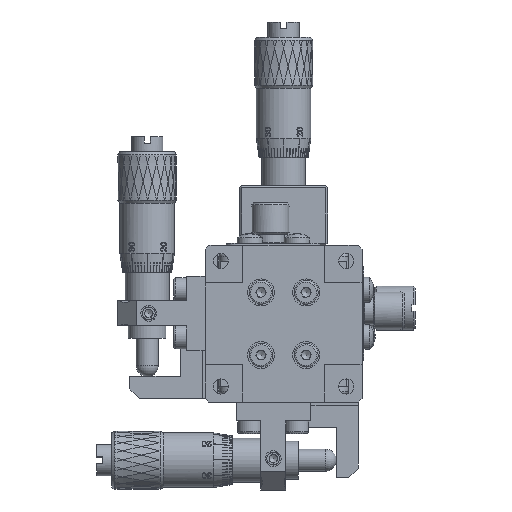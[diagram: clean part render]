
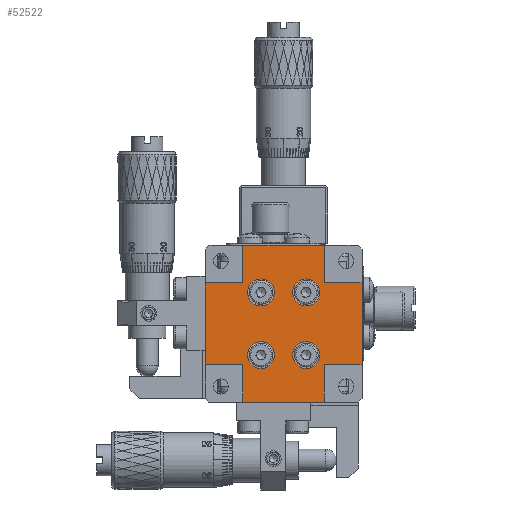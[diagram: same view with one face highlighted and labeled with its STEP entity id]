
A CAD part, front view. The second image highlights one B-rep face of the part: STEP entity #52522.
In plain terms, the highlighted planar face has unit normal (0, -1, 0).
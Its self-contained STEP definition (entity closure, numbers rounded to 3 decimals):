
#136 = DIRECTION ( 'NONE',  ( 0., 0., -1. ) ) ;
#360 = VERTEX_POINT ( 'NONE', #21362 ) ;
#741 = ORIENTED_EDGE ( 'NONE', *, *, #126607, .F. ) ;
#1957 = ORIENTED_EDGE ( 'NONE', *, *, #75576, .T. ) ;
#1966 = DIRECTION ( 'NONE',  ( 0., 0., -1. ) ) ;
#2541 = VERTEX_POINT ( 'NONE', #92465 ) ;
#2914 = FACE_BOUND ( 'NONE', #92681, .T. ) ;
#5341 = VERTEX_POINT ( 'NONE', #115067 ) ;
#6558 = CARTESIAN_POINT ( 'NONE',  ( -27.901, -13.093, -3.6 ) ) ;
#10688 = VECTOR ( 'NONE', #51397, 1000. ) ;
#10891 = VECTOR ( 'NONE', #140004, 1000. ) ;
#10924 = CARTESIAN_POINT ( 'NONE',  ( -11.801, -13.093, -15.1 ) ) ;
#13637 = CARTESIAN_POINT ( 'NONE',  ( -21.901, -13.093, 2.4 ) ) ;
#14381 = LINE ( 'NONE', #104701, #10688 ) ;
#14555 = ORIENTED_EDGE ( 'NONE', *, *, #93800, .F. ) ;
#14658 = ORIENTED_EDGE ( 'NONE', *, *, #142246, .F. ) ;
#14787 = PLANE ( 'NONE',  #111827 ) ;
#15530 = DIRECTION ( 'NONE',  ( 0., 0., -1. ) ) ;
#16820 = CARTESIAN_POINT ( 'NONE',  ( -19.001, -13.093, -5.1 ) ) ;
#17293 = CARTESIAN_POINT ( 'NONE',  ( -11.801, -13.093, -5.1 ) ) ;
#18073 = VECTOR ( 'NONE', #115816, 1000. ) ;
#21153 = CARTESIAN_POINT ( 'NONE',  ( -21.901, -13.093, -22.6 ) ) ;
#21362 = CARTESIAN_POINT ( 'NONE',  ( -21.901, -13.093, -3.6 ) ) ;
#23477 = DIRECTION ( 'NONE',  ( 0., 1., 0. ) ) ;
#23827 = VECTOR ( 'NONE', #59621, 1000. ) ;
#24265 = VECTOR ( 'NONE', #121311, 1000. ) ;
#24267 = AXIS2_PLACEMENT_3D ( 'NONE', #16820, #50894, #96020 ) ;
#26185 = DIRECTION ( 'NONE',  ( 0., 0., 1. ) ) ;
#28215 = CARTESIAN_POINT ( 'NONE',  ( -2.901, -13.093, -3.6 ) ) ;
#28628 = ORIENTED_EDGE ( 'NONE', *, *, #64726, .F. ) ;
#28806 = EDGE_CURVE ( 'NONE', #71713, #71713, #140092, .T. ) ;
#30920 = VECTOR ( 'NONE', #136, 1000. ) ;
#30990 = LINE ( 'NONE', #129500, #24265 ) ;
#31769 = CARTESIAN_POINT ( 'NONE',  ( -27.901, -13.093, -16.6 ) ) ;
#32980 = DIRECTION ( 'NONE',  ( 0., 0., 1. ) ) ;
#34554 = EDGE_CURVE ( 'NONE', #78849, #78849, #36899, .T. ) ;
#35475 = EDGE_CURVE ( 'NONE', #80799, #5341, #14381, .T. ) ;
#36621 = LINE ( 'NONE', #126945, #18073 ) ;
#36899 = CIRCLE ( 'NONE', #119658, 2.15 ) ;
#37182 = CARTESIAN_POINT ( 'NONE',  ( -27.901, -13.093, 2.4 ) ) ;
#37532 = DIRECTION ( 'NONE',  ( 0., 0., -1. ) ) ;
#37729 = EDGE_CURVE ( 'NONE', #39226, #128413, #61550, .T. ) ;
#38464 = CARTESIAN_POINT ( 'NONE',  ( -8.901, -13.093, 2.4 ) ) ;
#39226 = VERTEX_POINT ( 'NONE', #130064 ) ;
#40965 = DIRECTION ( 'NONE',  ( 0., 0., -1. ) ) ;
#42088 = ORIENTED_EDGE ( 'NONE', *, *, #95341, .T. ) ;
#42625 = CARTESIAN_POINT ( 'NONE',  ( -19.001, -13.093, -7.25 ) ) ;
#44368 = VECTOR ( 'NONE', #82748, 1000. ) ;
#44921 = ORIENTED_EDGE ( 'NONE', *, *, #60649, .T. ) ;
#45088 = ORIENTED_EDGE ( 'NONE', *, *, #64372, .T. ) ;
#45646 = VECTOR ( 'NONE', #113380, 1000. ) ;
#47770 = EDGE_CURVE ( 'NONE', #144541, #39226, #114127, .T. ) ;
#48092 = FACE_BOUND ( 'NONE', #78216, .T. ) ;
#49964 = VERTEX_POINT ( 'NONE', #31769 ) ;
#50894 = DIRECTION ( 'NONE',  ( 0., 1., 0. ) ) ;
#51397 = DIRECTION ( 'NONE',  ( -1., 0., 0. ) ) ;
#52522 = ADVANCED_FACE ( 'NONE', ( #2914, #82847, #48092, #127325, #71049 ), #14787, .T. ) ;
#57916 = ORIENTED_EDGE ( 'NONE', *, *, #81564, .T. ) ;
#58903 = LINE ( 'NONE', #116603, #23827 ) ;
#59621 = DIRECTION ( 'NONE',  ( 0., 0., 1. ) ) ;
#59739 = DIRECTION ( 'NONE',  ( 0., 1., 0. ) ) ;
#60057 = ORIENTED_EDGE ( 'NONE', *, *, #34554, .T. ) ;
#60649 = EDGE_CURVE ( 'NONE', #110657, #73666, #116828, .T. ) ;
#61550 = LINE ( 'NONE', #28215, #10891 ) ;
#61831 = ORIENTED_EDGE ( 'NONE', *, *, #28806, .T. ) ;
#62466 = DIRECTION ( 'NONE',  ( 0., 1., 0. ) ) ;
#62887 = CIRCLE ( 'NONE', #74700, 2.15 ) ;
#64372 = EDGE_CURVE ( 'NONE', #135477, #135477, #62887, .T. ) ;
#64726 = EDGE_CURVE ( 'NONE', #5341, #73666, #36621, .T. ) ;
#65764 = VERTEX_POINT ( 'NONE', #143522 ) ;
#66085 = LINE ( 'NONE', #75706, #90207 ) ;
#71049 = FACE_OUTER_BOUND ( 'NONE', #132229, .T. ) ;
#71216 = LINE ( 'NONE', #37182, #113684 ) ;
#71713 = VERTEX_POINT ( 'NONE', #42625 ) ;
#71779 = CARTESIAN_POINT ( 'NONE',  ( -15.401, -13.093, -10.1 ) ) ;
#73666 = VERTEX_POINT ( 'NONE', #116706 ) ;
#74700 = AXIS2_PLACEMENT_3D ( 'NONE', #99974, #59739, #37532 ) ;
#75359 = EDGE_LOOP ( 'NONE', ( #57916 ) ) ;
#75576 = EDGE_CURVE ( 'NONE', #80799, #128413, #58903, .T. ) ;
#75706 = CARTESIAN_POINT ( 'NONE',  ( -27.901, -13.093, -16.6 ) ) ;
#78216 = EDGE_LOOP ( 'NONE', ( #60057 ) ) ;
#78849 = VERTEX_POINT ( 'NONE', #112163 ) ;
#79613 = ORIENTED_EDGE ( 'NONE', *, *, #35475, .F. ) ;
#80100 = CARTESIAN_POINT ( 'NONE',  ( -8.901, -13.093, 2.4 ) ) ;
#80799 = VERTEX_POINT ( 'NONE', #86991 ) ;
#81564 = EDGE_CURVE ( 'NONE', #65764, #65764, #95456, .T. ) ;
#82222 = LINE ( 'NONE', #127407, #45646 ) ;
#82748 = DIRECTION ( 'NONE',  ( 1., 0., 0. ) ) ;
#82847 = FACE_BOUND ( 'NONE', #134608, .T. ) ;
#83153 = LINE ( 'NONE', #13637, #144675 ) ;
#86991 = CARTESIAN_POINT ( 'NONE',  ( -2.901, -13.093, -16.6 ) ) ;
#88277 = ORIENTED_EDGE ( 'NONE', *, *, #47770, .F. ) ;
#88986 = DIRECTION ( 'NONE',  ( -1., 0., 0. ) ) ;
#90207 = VECTOR ( 'NONE', #88986, 1000. ) ;
#91928 = EDGE_CURVE ( 'NONE', #137842, #49964, #71216, .T. ) ;
#92465 = CARTESIAN_POINT ( 'NONE',  ( -21.901, -13.093, 2.4 ) ) ;
#92665 = DIRECTION ( 'NONE',  ( 0., 0., -1. ) ) ;
#92681 = EDGE_LOOP ( 'NONE', ( #45088 ) ) ;
#93800 = EDGE_CURVE ( 'NONE', #360, #2541, #83153, .T. ) ;
#95341 = EDGE_CURVE ( 'NONE', #144541, #2541, #30990, .T. ) ;
#95456 = CIRCLE ( 'NONE', #138059, 2.15 ) ;
#96020 = DIRECTION ( 'NONE',  ( 0., 0., -1. ) ) ;
#99974 = CARTESIAN_POINT ( 'NONE',  ( -19.001, -13.093, -15.1 ) ) ;
#100156 = VERTEX_POINT ( 'NONE', #143333 ) ;
#101784 = LINE ( 'NONE', #21153, #128267 ) ;
#104701 = CARTESIAN_POINT ( 'NONE',  ( -2.901, -13.093, -16.6 ) ) ;
#105869 = ORIENTED_EDGE ( 'NONE', *, *, #37729, .F. ) ;
#107656 = EDGE_CURVE ( 'NONE', #137842, #360, #82222, .T. ) ;
#110657 = VERTEX_POINT ( 'NONE', #131479 ) ;
#111827 = AXIS2_PLACEMENT_3D ( 'NONE', #71779, #116938, #15530 ) ;
#112163 = CARTESIAN_POINT ( 'NONE',  ( -11.801, -13.093, -7.25 ) ) ;
#113380 = DIRECTION ( 'NONE',  ( 1., 0., 0. ) ) ;
#113684 = VECTOR ( 'NONE', #92665, 1000. ) ;
#114127 = LINE ( 'NONE', #80100, #30920 ) ;
#114633 = CARTESIAN_POINT ( 'NONE',  ( -2.901, -13.093, -22.6 ) ) ;
#115067 = CARTESIAN_POINT ( 'NONE',  ( -8.901, -13.093, -16.6 ) ) ;
#115816 = DIRECTION ( 'NONE',  ( 0., 0., -1. ) ) ;
#116603 = CARTESIAN_POINT ( 'NONE',  ( -2.901, -13.093, 2.4 ) ) ;
#116706 = CARTESIAN_POINT ( 'NONE',  ( -8.901, -13.093, -22.6 ) ) ;
#116828 = LINE ( 'NONE', #114633, #44368 ) ;
#116938 = DIRECTION ( 'NONE',  ( 0., -1., 0. ) ) ;
#119658 = AXIS2_PLACEMENT_3D ( 'NONE', #17293, #62466, #40965 ) ;
#121311 = DIRECTION ( 'NONE',  ( -1., 0., 0. ) ) ;
#126607 = EDGE_CURVE ( 'NONE', #100156, #49964, #66085, .T. ) ;
#126945 = CARTESIAN_POINT ( 'NONE',  ( -8.901, -13.093, -22.6 ) ) ;
#127278 = CARTESIAN_POINT ( 'NONE',  ( -2.901, -13.093, -3.6 ) ) ;
#127325 = FACE_BOUND ( 'NONE', #75359, .T. ) ;
#127407 = CARTESIAN_POINT ( 'NONE',  ( -27.901, -13.093, -3.6 ) ) ;
#127455 = ORIENTED_EDGE ( 'NONE', *, *, #91928, .T. ) ;
#128267 = VECTOR ( 'NONE', #32980, 1000. ) ;
#128413 = VERTEX_POINT ( 'NONE', #127278 ) ;
#129500 = CARTESIAN_POINT ( 'NONE',  ( -2.901, -13.093, 2.4 ) ) ;
#130064 = CARTESIAN_POINT ( 'NONE',  ( -8.901, -13.093, -3.6 ) ) ;
#131479 = CARTESIAN_POINT ( 'NONE',  ( -21.901, -13.093, -22.6 ) ) ;
#132229 = EDGE_LOOP ( 'NONE', ( #1957, #105869, #88277, #42088, #14555, #139840, #127455, #741, #14658, #44921, #28628, #79613 ) ) ;
#134608 = EDGE_LOOP ( 'NONE', ( #61831 ) ) ;
#135477 = VERTEX_POINT ( 'NONE', #145874 ) ;
#137842 = VERTEX_POINT ( 'NONE', #6558 ) ;
#138059 = AXIS2_PLACEMENT_3D ( 'NONE', #10924, #23477, #1966 ) ;
#139840 = ORIENTED_EDGE ( 'NONE', *, *, #107656, .F. ) ;
#140004 = DIRECTION ( 'NONE',  ( 1., 0., 0. ) ) ;
#140092 = CIRCLE ( 'NONE', #24267, 2.15 ) ;
#142246 = EDGE_CURVE ( 'NONE', #110657, #100156, #101784, .T. ) ;
#143333 = CARTESIAN_POINT ( 'NONE',  ( -21.901, -13.093, -16.6 ) ) ;
#143522 = CARTESIAN_POINT ( 'NONE',  ( -11.801, -13.093, -17.25 ) ) ;
#144541 = VERTEX_POINT ( 'NONE', #38464 ) ;
#144675 = VECTOR ( 'NONE', #26185, 1000. ) ;
#145874 = CARTESIAN_POINT ( 'NONE',  ( -19.001, -13.093, -17.25 ) ) ;
